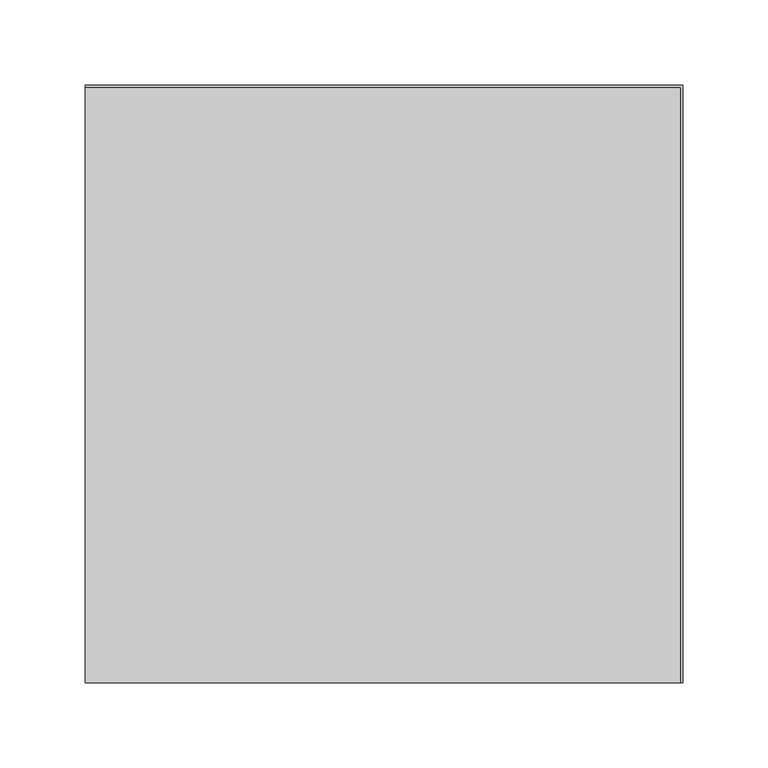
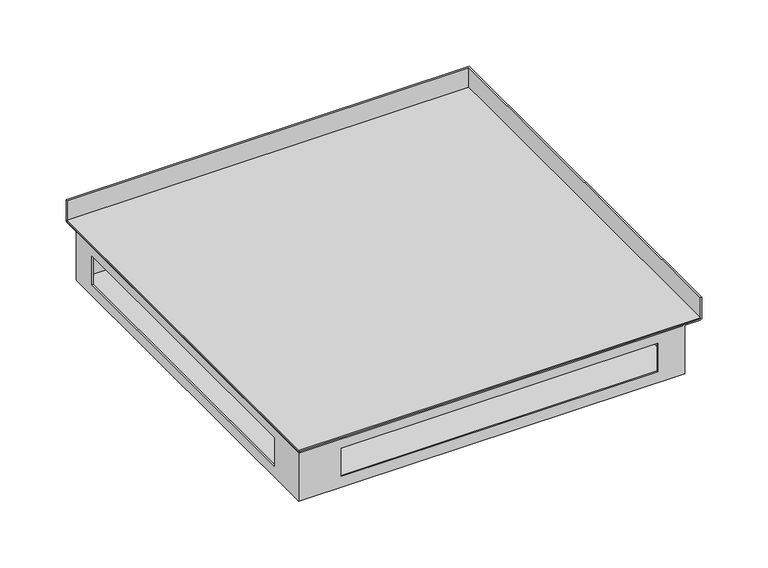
"""IFC4 building model written with IfcOpenShell, lengths in millimetres: proxy geometry, TECHNO_Угловой элемент_KVU : 350_065_90°."""

from ifc_helpers import new_model, si_unit, frame, origin, place, context, project, spatial, polyline, circle_curve, ellipse_curve, outline, extrude, source, transform, mapped, element, save
from ifc_brep_helpers import plane_surface, cylinder_surface, advanced_brep


def mechanical_equipment_93fa4cb1(model_context):
    return source(origin(), model_context, "Body", "SolidModel", [
        extrude(outline(polyline([(0.0, 173.8), (348.8, 173.8), (348.8, -175.0), (0.0, -175.0), (0.0, 173.8)])), frame((0.0, 0.0, -19.3), z_axis=(0.0, 0.0, 1.0), x_axis=(1.0, 0.0, 0.0)), (0.0, 0.0, 1.0), 1.2),
        advanced_brep(
        [(1.2, 159.0, -63.8), (1.2, -173.8, -63.8), (334.0, -173.8, -63.8), (334.0, 159.0, -63.8), (0.0, 160.2, -65.0), (335.2, 160.2, -65.0), (335.2, -175.0, -65.0), (0.0, -175.0, -65.0), (0.0, 160.2, -20.5), (0.0, -175.0, -20.5), (0.0, 159.0, -20.5), (0.0, 160.2, -19.3), (0.0, 173.8, -19.3), (0.0, 173.8, 0.0), (0.0, 175.0, 0.0), (0.0, 175.0, -19.3), (0.0, 173.8, -20.5), (0.0, -138.0, -29.0), (0.0, -138.0, -55.0), (0.0, 137.0, -55.0), (0.0, 137.0, -29.0), (335.2, -175.0, -20.5), (348.8, -175.0, -20.5), (350.0, -175.0, -19.3), (350.0, -175.0, 0.0), (348.8, -175.0, 0.0), (348.8, -175.0, -19.3), (335.2, -175.0, -19.3), (334.0, -175.0, -20.5), (37.0, -175.0, -55.0), (37.0, -175.0, -29.0), (312.0, -175.0, -29.0), (312.0, -175.0, -55.0), (335.2, 160.2, -20.5), (1.2, 160.2, -19.3), (1.2, -173.8, -19.3), (335.2, -173.8, -19.3), (348.8, 173.8, -19.3), (335.2, -159.0, -19.3), (16.0, -159.0, -19.3), (16.0, 160.2, -19.3), (335.2, 160.2, -19.3), (16.0, -159.0, -20.5), (16.0, 159.0, -20.5), (334.0, -159.0, -20.5), (334.0, -173.8, -20.5), (1.2, -173.8, -20.5), (1.2, 159.0, -20.5), (1.2, -138.0, -55.0), (1.2, -138.0, -29.0), (1.2, 137.0, -29.0), (1.2, 137.0, -55.0), (37.0, -173.8, -29.0), (37.0, -173.8, -55.0), (312.0, -173.8, -55.0), (312.0, -173.8, -29.0), (350.0, 175.0, -19.3), (350.0, 175.0, 0.0), (348.8, 173.8, 0.0), (348.8, 173.8, -20.5), (334.0, 159.0, -20.5)],
        [
            (0, 1),
            (1, 2),
            (2, 3),
            (3, 0),
            (4, 5),
            (5, 6),
            (6, 7),
            (7, 4),
            (8, 4),
            (7, 9),
            (9, 10),
            (10, 11, circle_curve(frame((0.0, 160.2, -20.5), z_axis=(-1.0, 0.0, 0.0), x_axis=(0.0, -1.0, 0.0)), 1.2)),
            (11, 12),
            (12, 13),
            (13, 14),
            (14, 15),
            (15, 16, circle_curve(frame((0.0, 173.8, -19.3), z_axis=(-1.0, 0.0, 0.0), x_axis=(0.0, -1.0, 0.0)), 1.2)),
            (16, 8),
            (17, 18),
            (18, 19),
            (19, 20),
            (20, 17),
            (6, 21),
            (21, 22),
            (22, 23, circle_curve(frame((348.8, -175.0, -19.3), z_axis=(0.0, -1.0, 0.0), x_axis=(-1.0, 0.0, 0.0)), 1.2)),
            (23, 24),
            (24, 25),
            (25, 26),
            (26, 27),
            (27, 28, circle_curve(frame((335.2, -175.0, -20.5), z_axis=(0.0, -1.0, 0.0), x_axis=(-1.0, 0.0, 0.0)), 1.2)),
            (28, 9),
            (29, 30),
            (30, 31),
            (31, 32),
            (32, 29),
            (8, 33),
            (33, 5),
            (33, 21),
            (34, 35),
            (35, 36),
            (36, 27),
            (26, 37),
            (37, 12),
            (11, 34),
            (38, 39),
            (39, 40),
            (40, 41),
            (41, 38),
            (39, 42),
            (42, 43),
            (43, 40, circle_curve(frame((16.0, 160.2, -20.5), z_axis=(-1.0, 0.0, 0.0), x_axis=(0.0, -1.0, 0.0)), 1.2)),
            (38, 44, circle_curve(frame((335.2, -159.0, -20.5), z_axis=(0.0, -1.0, 0.0), x_axis=(-1.0, 0.0, 0.0)), 1.2)),
            (44, 42),
            (44, 45),
            (45, 46),
            (46, 47),
            (47, 43),
            (46, 1),
            (0, 47),
            (48, 49),
            (49, 50),
            (50, 51),
            (51, 48),
            (45, 2),
            (52, 53),
            (53, 54),
            (54, 55),
            (55, 52),
            (34, 10, ellipse_curve(frame((1.2, 160.2, -20.5), z_axis=(0.7071067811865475, -0.7071067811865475, 0.0), x_axis=(0.7071067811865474, 0.7071067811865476, 0.0)), 1.6970563, 1.2)),
            (9, 35, ellipse_curve(frame((1.2, -173.8, -20.5), z_axis=(-0.7071067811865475, 0.7071067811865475, 0.0), x_axis=(0.7071067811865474, 0.7071067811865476, 0.0)), 1.6970563, 1.2)),
            (28, 36, ellipse_curve(frame((335.2, -173.8, -20.5), z_axis=(-0.7071067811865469, 0.7071067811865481, 0.0), x_axis=(-0.7071067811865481, -0.7071067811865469, 0.0)), 1.6970563, 1.2)),
            (23, 56),
            (56, 57),
            (57, 24),
            (57, 14),
            (13, 58),
            (58, 25),
            (58, 37),
            (16, 59),
            (59, 22),
            (59, 56, ellipse_curve(frame((348.8, 173.8, -19.3), z_axis=(0.7071067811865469, -0.7071067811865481, 0.0), x_axis=(-0.7071067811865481, -0.7071067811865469, 0.0)), 1.6970563, 1.2)),
            (56, 15),
            (41, 60, ellipse_curve(frame((335.2, 160.2, -20.5), z_axis=(0.7071067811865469, -0.7071067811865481, 0.0), x_axis=(-0.7071067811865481, -0.7071067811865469, 0.0)), 1.6970563, 1.2)),
            (60, 44),
            (60, 3),
            (43, 60),
            (48, 18),
            (17, 49),
            (51, 19),
            (50, 20),
            (52, 30),
            (29, 53),
            (55, 31),
            (54, 32),
        ],
        [
            plane_surface(frame((0.0, 159.0, -63.8), z_axis=(0.0, 0.0, 1.0), x_axis=(0.0, -1.0, 0.0))),
            plane_surface(frame((0.0, 159.0, -65.0), z_axis=(0.0, 0.0, -1.0), x_axis=(0.0, 1.0, 0.0))),
            plane_surface(frame((0.0, 159.0, -63.8), z_axis=(-1.0, 0.0, 0.0), x_axis=(0.0, 0.0, -1.0))),
            plane_surface(frame((0.0, -175.0, -63.8), z_axis=(0.0, -1.0, 0.0), x_axis=(0.0, 0.0, -1.0))),
            plane_surface(frame((0.0, 160.2, -65.0), z_axis=(0.0, 1.0, 0.0), x_axis=(0.0, 0.0, -1.0))),
            plane_surface(frame((335.2, -175.0, -65.0), z_axis=(1.0, 0.0, 0.0), x_axis=(0.0, 0.0, -1.0))),
            plane_surface(frame((1.2, 160.2, -19.3), z_axis=(0.0, 0.0, 1.0), x_axis=(0.0, -1.0, 0.0))),
            plane_surface(frame((16.0, 160.2, -19.3), z_axis=(1.0, 0.0, 0.0), x_axis=(0.0, -1.0, 0.0))),
            plane_surface(frame((16.0, -159.0, -19.3), z_axis=(0.0, 1.0, 0.0), x_axis=(1.0, 0.0, 0.0))),
            plane_surface(frame((16.0, 160.2, -20.5), z_axis=(0.0, 0.0, -1.0), x_axis=(0.0, -1.0, 0.0))),
            plane_surface(frame((1.2, 160.2, -20.5), z_axis=(1.0, 0.0, 0.0), x_axis=(0.0, -1.0, 0.0))),
            plane_surface(frame((1.2, -173.8, -20.5), z_axis=(0.0, 1.0, 0.0), x_axis=(1.0, 0.0, 0.0))),
            cylinder_surface(frame((1.2, 160.2, -20.5), z_axis=(0.0, 1.0, 0.0), x_axis=(-1.0, 0.0, 0.0)), 1.2),
            cylinder_surface(frame((0.0, -173.8, -20.5), z_axis=(-1.0, 0.0, 0.0), x_axis=(0.0, -1.0, 0.0)), 1.2),
            plane_surface(frame((350.0, -175.0, -19.3), z_axis=(1.0, 0.0, 0.0), x_axis=(0.0, 1.0, 0.0))),
            plane_surface(frame((350.0, -175.0, 0.0), z_axis=(0.0, 0.0, 1.0), x_axis=(0.0, 1.0, 0.0))),
            plane_surface(frame((348.8, -175.0, 0.0), z_axis=(-1.0, 0.0, 0.0), x_axis=(0.0, 1.0, 0.0))),
            plane_surface(frame((335.2, -175.0, -20.5), z_axis=(0.0, 0.0, -1.0), x_axis=(0.0, 1.0, 0.0))),
            cylinder_surface(frame((348.8, -175.0, -19.3), z_axis=(0.0, -1.0, 0.0), x_axis=(-1.0, 0.0, 0.0)), 1.2),
            plane_surface(frame((350.0, 175.0, -19.3), z_axis=(0.0, 1.0, 0.0), x_axis=(-1.0, 0.0, 0.0))),
            plane_surface(frame((348.8, 173.8, 0.0), z_axis=(0.0, -1.0, 0.0), x_axis=(-1.0, 0.0, 0.0))),
            cylinder_surface(frame((175.0, 173.8, -19.3), z_axis=(1.0, 0.0, 0.0), x_axis=(0.0, -1.0, 0.0)), 1.2),
            cylinder_surface(frame((335.2, -175.0, -20.5), z_axis=(0.0, -1.0, 0.0), x_axis=(-1.0, 0.0, 0.0)), 1.2),
            plane_surface(frame((334.0, -175.0, -20.5), z_axis=(-1.0, 0.0, 0.0), x_axis=(0.0, 1.0, 0.0))),
            cylinder_surface(frame((175.0, 160.2, -20.5), z_axis=(1.0, 0.0, 0.0), x_axis=(0.0, -1.0, 0.0)), 1.2),
            plane_surface(frame((334.0, 159.0, -20.5), z_axis=(0.0, -1.0, 0.0), x_axis=(-1.0, 0.0, 0.0))),
            plane_surface(frame((1.2, -138.0, -29.0), z_axis=(0.0, 1.0, 0.0), x_axis=(-1.0, 0.0, 0.0))),
            plane_surface(frame((1.2, -138.0, -55.0), z_axis=(0.0, 0.0, 1.0), x_axis=(-1.0, 0.0, 0.0))),
            plane_surface(frame((1.2, 137.0, -55.0), z_axis=(0.0, -1.0, 0.0), x_axis=(-1.0, 0.0, 0.0))),
            plane_surface(frame((1.2, 137.0, -29.0), z_axis=(0.0, 0.0, -1.0), x_axis=(-1.0, 0.0, 0.0))),
            plane_surface(frame((37.0, -173.8, -55.0), z_axis=(1.0, 0.0, 0.0), x_axis=(0.0, -1.0, 0.0))),
            plane_surface(frame((37.0, -173.8, -29.0), z_axis=(0.0, 0.0, -1.0), x_axis=(0.0, -1.0, 0.0))),
            plane_surface(frame((312.0, -173.8, -29.0), z_axis=(-1.0, 0.0, 0.0), x_axis=(0.0, -1.0, 0.0))),
            plane_surface(frame((312.0, -173.8, -55.0), z_axis=(0.0, 0.0, 1.0), x_axis=(0.0, -1.0, 0.0))),
        ],
        [
            (0, [[1, 2, 3, 4]]),
            (1, [[5, 6, 7, 8]]),
            (2, [[9, -8, 10, 11, 12, 13, 14, 15, 16, 17, 18], [19, 20, 21, 22]]),
            (3, [[23, 24, 25, 26, 27, 28, 29, 30, 31, -10, -7], [32, 33, 34, 35]]),
            (4, [[-9, 36, 37, -5]]),
            (5, [[-23, -6, -37, 38]]),
            (6, [[39, 40, 41, -29, 42, 43, -13, 44], [45, 46, 47, 48]]),
            (7, [[-46, 49, 50, 51]]),
            (8, [[-45, 52, 53, -49]]),
            (9, [[-50, -53, 54, 55, 56, 57]]),
            (10, [[58, -1, 59, -56], [60, 61, 62, 63]]),
            (11, [[-58, -55, 64, -2], [65, 66, 67, 68]]),
            (12, [[-39, 69, -11, 70]]),
            (13, [[-40, -70, -31, 71]]),
            (14, [[-26, 72, 73, 74]]),
            (15, [[-27, -74, 75, -15, 76, 77]]),
            (16, [[-28, -77, 78, -42]]),
            (17, [[-24, -38, -36, -18, 79, 80]]),
            (18, [[-25, -80, 81, -72]]),
            (19, [[-73, 82, -16, -75]]),
            (20, [[-76, -14, -43, -78]]),
            (21, [[-79, -17, -82, -81]]),
            (22, [[-30, -41, -71]]),
            (22, [[83, 84, -52, -48]]),
            (23, [[85, -3, -64, -54, -84]]),
            (24, [[-12, -69, -44]]),
            (24, [[-83, -47, -51, 86]]),
            (25, [[-85, -86, -57, -59, -4]]),
            (26, [[87, -19, 88, -60]]),
            (27, [[-87, -63, 89, -20]]),
            (28, [[-89, -62, 90, -21]]),
            (29, [[-88, -22, -90, -61]]),
            (30, [[91, -32, 92, -65]]),
            (31, [[-91, -68, 93, -33]]),
            (32, [[-93, -67, 94, -34]]),
            (33, [[-92, -35, -94, -66]]),
        ],
    ),
    ])


if __name__ == "__main__":
    model = new_model("IFC4")
    model_context = context("Model", 3, world=origin())
    ifc_project = project(units=[si_unit("LENGTHUNIT", "METRE", prefix="MILLI")], contexts=[model_context])
    site = spatial("IfcSite", under=ifc_project)
    building = spatial("IfcBuilding", under=site)
    placement = place(None, origin())
    mechanical_equipment_shape = mechanical_equipment_93fa4cb1(model_context)
    element("IfcBuildingElementProxy", 1, Name="TECHNO_Угловой элемент_KVU : 350_065_90°", ObjectType="TECHNO_Угловой элемент_KVU : 350_065_90°", at=placement, inside=building, context=model_context, shape_type="MappedRepresentation", body=[
        mapped(mechanical_equipment_shape, transform((0.0, 0.0, 0.0), x_axis=(1.0, 0.0, 0.0), y_axis=(0.0, 1.0, 0.0), z_axis=(0.0, 0.0, 1.0))),
    ])
    save(model, "model.ifc")
